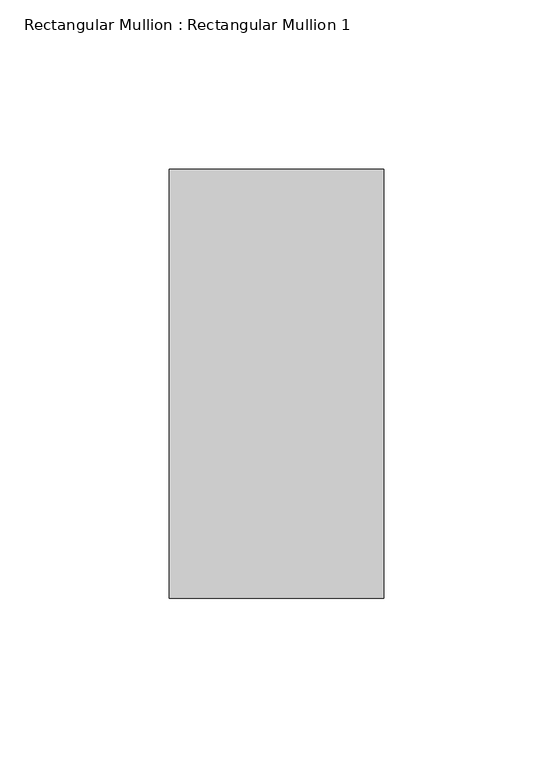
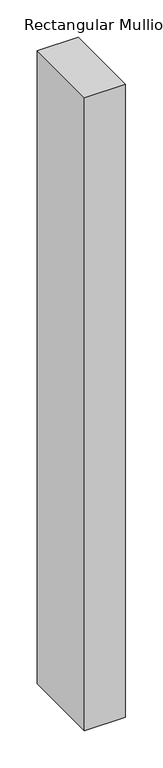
"""IFC4 building model written with IfcOpenShell, lengths in millimetres: member geometry, Rectangular Mullion : Rectangular Mullion 1."""

from ifc_helpers import new_model, si_unit, frame, origin, place, context, project, spatial, polyline, outline, extrude, source, transform, mapped, element, save


def rectangular_mullion_rectangular_mullion_1_54137339(model_context):
    return source(origin(), model_context, "Body", "SweptSolid", [
        extrude(outline(polyline([(31.75, 63.5), (31.75, -63.5), (-31.75, -63.5), (-31.75, 63.5), (31.75, 63.5)])), frame((0.0, 0.0, -1038.6785715), z_axis=(0.0, 0.0, 1.0), x_axis=(1.0, 0.0, 0.0)), (0.0, 0.0, 1.0), 1038.6785715),
    ])


if __name__ == "__main__":
    model = new_model("IFC4")
    model_context = context("Model", 3, world=origin())
    ifc_project = project(units=[si_unit("LENGTHUNIT", "METRE", prefix="MILLI")], contexts=[model_context])
    site = spatial("IfcSite", under=ifc_project)
    building = spatial("IfcBuilding", under=site)
    placement = place(None, origin())
    rectangular_mullion_rectangular_mullion_1_shape = rectangular_mullion_rectangular_mullion_1_54137339(model_context)
    element("IfcMember", 1, ObjectType="Rectangular Mullion : Rectangular Mullion 1", at=placement, inside=building, context=model_context, shape_type="MappedRepresentation", body=[
        mapped(rectangular_mullion_rectangular_mullion_1_shape, transform((0.0, 0.0, 0.0), x_axis=(1.0, 0.0, 0.0), y_axis=(0.0, 1.0, 0.0), z_axis=(0.0, 0.0, 1.0))),
    ])
    save(model, "model.ifc")
